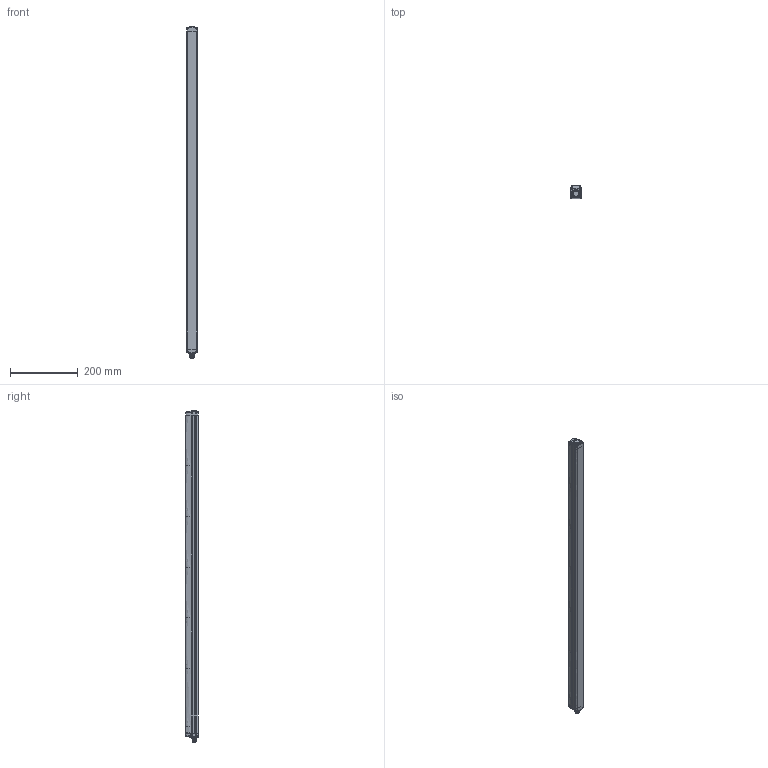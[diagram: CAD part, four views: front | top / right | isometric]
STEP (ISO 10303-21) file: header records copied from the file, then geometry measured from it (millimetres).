
FILE_DESCRIPTION((''),'2;1');
FILE_NAME('2008578','2011-03-28T',('rink'),(''),'PRO/ENGINEER BY PARAMETRIC TECHNOLOGY CORPORATION, 2009380','PRO/ENGINEER BY PARAMETRIC TECHNOLOGY CORPORATION, 2009380','');
FILE_SCHEMA(('AUTOMOTIVE_DESIGN_CC2 { 1 2 10303 214 -1 1 5 2 }'));
Products named in the file (1): 2008578
Bounding box: 32.3 x 37.08 x 983.24 mm (x, y, z)
Volume: 971985.9 mm3; surface area: 230514.7 mm2
Topology: 17 solids, 167 shells, 1803 faces, 4855 edges, 3034 vertices
Faces by surface type: cylinder 645, plane 406, torus 278, bspline 215, sphere 124, extrusion 93, cone 42
Entity records: 90172 total; most frequent: CARTESIAN_POINT 32310, DIRECTION 8711, ORIENTED_EDGE 8472, PRESENTATION_STYLE_ASSIGNMENT 4923, STYLED_ITEM 4918, CURVE_STYLE 4751, EDGE_CURVE 4746, AXIS2_PLACEMENT_3D 3560
